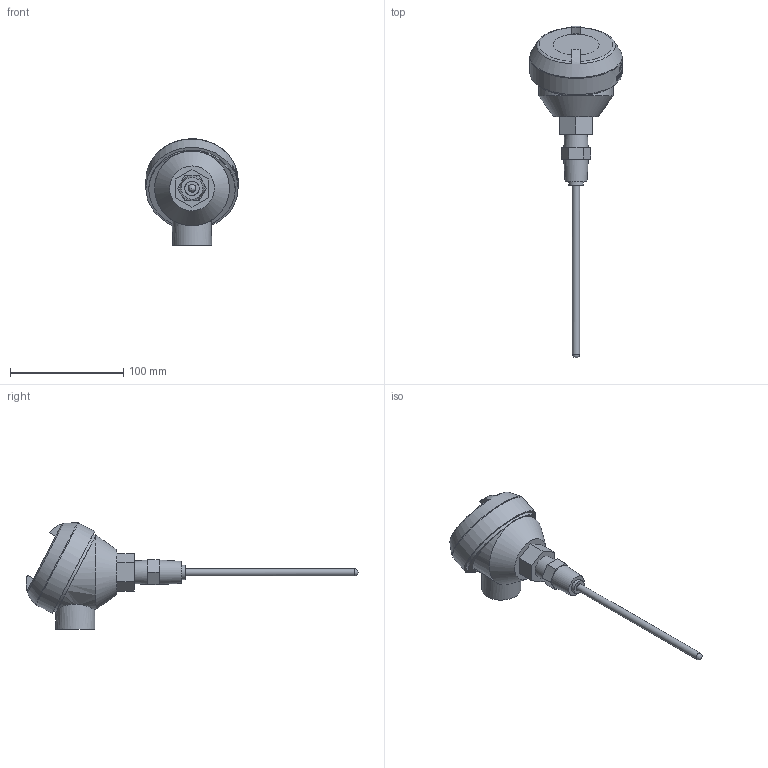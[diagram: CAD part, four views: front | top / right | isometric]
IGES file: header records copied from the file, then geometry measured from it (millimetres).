
Global section: file name: Cast-Aluminum-Head-Spring-Loaded-IGS; native system: Autodesk Inventor 2014; preprocessor: unknown; author: Charles; date: 20151111.121638; units: inch
Bounding box: 81.35 x 293.06 x 93.98 mm (x, y, z)
Volume: 279515.1 mm3; surface area: 37489.7 mm2
Topology: 3 solids, 3 shells, 299 faces, 803 edges, 539 vertices
Faces by surface type: bspline 299
